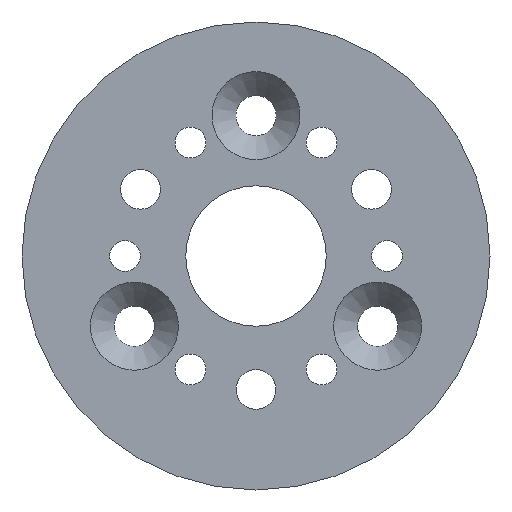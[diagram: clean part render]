
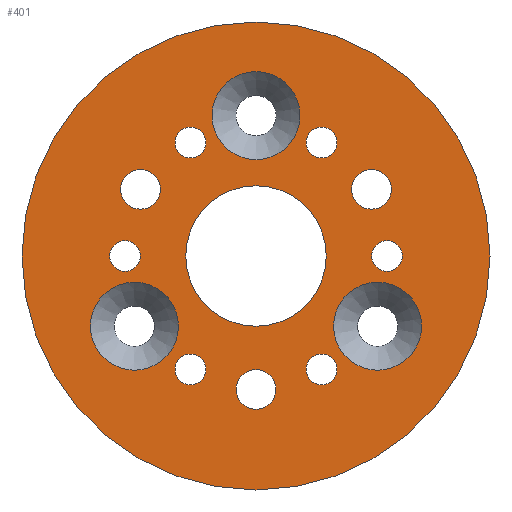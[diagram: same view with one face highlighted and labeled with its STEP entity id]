
A CAD part, front view. The second image highlights one B-rep face of the part: STEP entity #401.
In plain terms, the highlighted planar face has unit normal (0, -1, 0).
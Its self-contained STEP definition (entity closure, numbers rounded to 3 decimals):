
#43=FACE_BOUND('',#97,.T.);
#44=FACE_BOUND('',#98,.T.);
#45=FACE_BOUND('',#99,.T.);
#46=FACE_BOUND('',#100,.T.);
#47=FACE_BOUND('',#101,.T.);
#48=FACE_BOUND('',#102,.T.);
#49=FACE_BOUND('',#103,.T.);
#50=FACE_BOUND('',#104,.T.);
#51=FACE_BOUND('',#105,.T.);
#52=FACE_BOUND('',#106,.T.);
#53=FACE_BOUND('',#107,.T.);
#54=FACE_BOUND('',#108,.T.);
#55=FACE_BOUND('',#109,.T.);
#58=PLANE('',#451);
#62=FACE_OUTER_BOUND('',#96,.T.);
#96=EDGE_LOOP('',(#300));
#97=EDGE_LOOP('',(#301));
#98=EDGE_LOOP('',(#302));
#99=EDGE_LOOP('',(#303));
#100=EDGE_LOOP('',(#304));
#101=EDGE_LOOP('',(#305));
#102=EDGE_LOOP('',(#306));
#103=EDGE_LOOP('',(#307));
#104=EDGE_LOOP('',(#308));
#105=EDGE_LOOP('',(#309));
#106=EDGE_LOOP('',(#310));
#107=EDGE_LOOP('',(#311));
#108=EDGE_LOOP('',(#312));
#109=EDGE_LOOP('',(#313));
#180=CIRCLE('',#452,25.);
#181=CIRCLE('',#453,7.5);
#182=CIRCLE('',#454,1.65);
#183=CIRCLE('',#455,1.65);
#184=CIRCLE('',#456,1.65);
#185=CIRCLE('',#457,1.65);
#186=CIRCLE('',#458,1.65);
#187=CIRCLE('',#459,1.65);
#188=CIRCLE('',#460,4.7);
#189=CIRCLE('',#461,4.7);
#190=CIRCLE('',#462,4.7);
#191=CIRCLE('',#463,2.125);
#192=CIRCLE('',#464,2.125);
#193=CIRCLE('',#465,2.125);
#213=VERTEX_POINT('',#651);
#214=VERTEX_POINT('',#653);
#215=VERTEX_POINT('',#655);
#216=VERTEX_POINT('',#657);
#217=VERTEX_POINT('',#659);
#218=VERTEX_POINT('',#661);
#219=VERTEX_POINT('',#663);
#220=VERTEX_POINT('',#665);
#221=VERTEX_POINT('',#667);
#222=VERTEX_POINT('',#669);
#223=VERTEX_POINT('',#671);
#224=VERTEX_POINT('',#673);
#225=VERTEX_POINT('',#675);
#226=VERTEX_POINT('',#677);
#247=EDGE_CURVE('',#213,#213,#180,.T.);
#248=EDGE_CURVE('',#214,#214,#181,.T.);
#249=EDGE_CURVE('',#215,#215,#182,.T.);
#250=EDGE_CURVE('',#216,#216,#183,.T.);
#251=EDGE_CURVE('',#217,#217,#184,.T.);
#252=EDGE_CURVE('',#218,#218,#185,.T.);
#253=EDGE_CURVE('',#219,#219,#186,.T.);
#254=EDGE_CURVE('',#220,#220,#187,.T.);
#255=EDGE_CURVE('',#221,#221,#188,.T.);
#256=EDGE_CURVE('',#222,#222,#189,.T.);
#257=EDGE_CURVE('',#223,#223,#190,.T.);
#258=EDGE_CURVE('',#224,#224,#191,.T.);
#259=EDGE_CURVE('',#225,#225,#192,.T.);
#260=EDGE_CURVE('',#226,#226,#193,.T.);
#300=ORIENTED_EDGE('',*,*,#247,.T.);
#301=ORIENTED_EDGE('',*,*,#248,.F.);
#302=ORIENTED_EDGE('',*,*,#249,.F.);
#303=ORIENTED_EDGE('',*,*,#250,.F.);
#304=ORIENTED_EDGE('',*,*,#251,.F.);
#305=ORIENTED_EDGE('',*,*,#252,.F.);
#306=ORIENTED_EDGE('',*,*,#253,.F.);
#307=ORIENTED_EDGE('',*,*,#254,.F.);
#308=ORIENTED_EDGE('',*,*,#255,.F.);
#309=ORIENTED_EDGE('',*,*,#256,.F.);
#310=ORIENTED_EDGE('',*,*,#257,.F.);
#311=ORIENTED_EDGE('',*,*,#258,.F.);
#312=ORIENTED_EDGE('',*,*,#259,.F.);
#313=ORIENTED_EDGE('',*,*,#260,.F.);
#401=ADVANCED_FACE('',(#62,#43,#44,#45,#46,#47,#48,#49,#50,#51,#52,#53,
#54,#55),#58,.F.);
#451=AXIS2_PLACEMENT_3D('',#650,#525,#526);
#452=AXIS2_PLACEMENT_3D('',#652,#527,#528);
#453=AXIS2_PLACEMENT_3D('',#654,#529,#530);
#454=AXIS2_PLACEMENT_3D('',#656,#531,#532);
#455=AXIS2_PLACEMENT_3D('',#658,#533,#534);
#456=AXIS2_PLACEMENT_3D('',#660,#535,#536);
#457=AXIS2_PLACEMENT_3D('',#662,#537,#538);
#458=AXIS2_PLACEMENT_3D('',#664,#539,#540);
#459=AXIS2_PLACEMENT_3D('',#666,#541,#542);
#460=AXIS2_PLACEMENT_3D('',#668,#543,#544);
#461=AXIS2_PLACEMENT_3D('',#670,#545,#546);
#462=AXIS2_PLACEMENT_3D('',#672,#547,#548);
#463=AXIS2_PLACEMENT_3D('',#674,#549,#550);
#464=AXIS2_PLACEMENT_3D('',#676,#551,#552);
#465=AXIS2_PLACEMENT_3D('',#678,#553,#554);
#525=DIRECTION('center_axis',(0.,1.,0.));
#526=DIRECTION('ref_axis',(0.,0.,1.));
#527=DIRECTION('center_axis',(0.,-1.,0.));
#528=DIRECTION('ref_axis',(0.,0.,-1.));
#529=DIRECTION('center_axis',(0.,-1.,0.));
#530=DIRECTION('ref_axis',(0.,0.,-1.));
#531=DIRECTION('center_axis',(0.,-1.,0.));
#532=DIRECTION('ref_axis',(0.,0.,-1.));
#533=DIRECTION('center_axis',(0.,-1.,0.));
#534=DIRECTION('ref_axis',(0.,0.,-1.));
#535=DIRECTION('center_axis',(0.,-1.,0.));
#536=DIRECTION('ref_axis',(0.,0.,-1.));
#537=DIRECTION('center_axis',(0.,-1.,0.));
#538=DIRECTION('ref_axis',(0.,0.,-1.));
#539=DIRECTION('center_axis',(0.,-1.,0.));
#540=DIRECTION('ref_axis',(0.,0.,-1.));
#541=DIRECTION('center_axis',(0.,-1.,0.));
#542=DIRECTION('ref_axis',(0.,0.,-1.));
#543=DIRECTION('center_axis',(0.,-1.,0.));
#544=DIRECTION('ref_axis',(0.,0.,-1.));
#545=DIRECTION('center_axis',(0.,-1.,0.));
#546=DIRECTION('ref_axis',(0.,0.,-1.));
#547=DIRECTION('center_axis',(0.,-1.,0.));
#548=DIRECTION('ref_axis',(0.,0.,-1.));
#549=DIRECTION('center_axis',(0.,-1.,0.));
#550=DIRECTION('ref_axis',(0.,0.,-1.));
#551=DIRECTION('center_axis',(0.,-1.,0.));
#552=DIRECTION('ref_axis',(0.,0.,-1.));
#553=DIRECTION('center_axis',(0.,-1.,0.));
#554=DIRECTION('ref_axis',(0.,0.,-1.));
#650=CARTESIAN_POINT('Origin',(0.,0.,0.));
#651=CARTESIAN_POINT('',(0.,0.,25.));
#652=CARTESIAN_POINT('Origin',(0.,0.,0.));
#653=CARTESIAN_POINT('',(0.,0.,7.5));
#654=CARTESIAN_POINT('Origin',(0.,0.,0.));
#655=CARTESIAN_POINT('',(7.,0.,-10.474));
#656=CARTESIAN_POINT('Origin',(7.,0.,-12.124));
#657=CARTESIAN_POINT('',(-7.,0.,-10.474));
#658=CARTESIAN_POINT('Origin',(-7.,0.,-12.124));
#659=CARTESIAN_POINT('',(-14.,0.,1.65));
#660=CARTESIAN_POINT('Origin',(-14.,0.,0.));
#661=CARTESIAN_POINT('',(-7.,0.,13.774));
#662=CARTESIAN_POINT('Origin',(-7.,0.,12.124));
#663=CARTESIAN_POINT('',(7.,0.,13.774));
#664=CARTESIAN_POINT('Origin',(7.,0.,12.124));
#665=CARTESIAN_POINT('',(14.,0.,1.65));
#666=CARTESIAN_POINT('Origin',(14.,0.,0.));
#667=CARTESIAN_POINT('',(0.,0.,19.7));
#668=CARTESIAN_POINT('Origin',(0.,0.,15.));
#669=CARTESIAN_POINT('',(-12.99,0.,-2.8));
#670=CARTESIAN_POINT('Origin',(-12.99,0.,-7.5));
#671=CARTESIAN_POINT('',(12.99,0.,-2.8));
#672=CARTESIAN_POINT('Origin',(12.99,0.,-7.5));
#673=CARTESIAN_POINT('',(12.341,0.,9.25));
#674=CARTESIAN_POINT('Origin',(12.341,0.,7.125));
#675=CARTESIAN_POINT('',(0.,0.,-12.125));
#676=CARTESIAN_POINT('Origin',(0.,0.,-14.25));
#677=CARTESIAN_POINT('',(-12.341,0.,9.25));
#678=CARTESIAN_POINT('Origin',(-12.341,0.,7.125));
